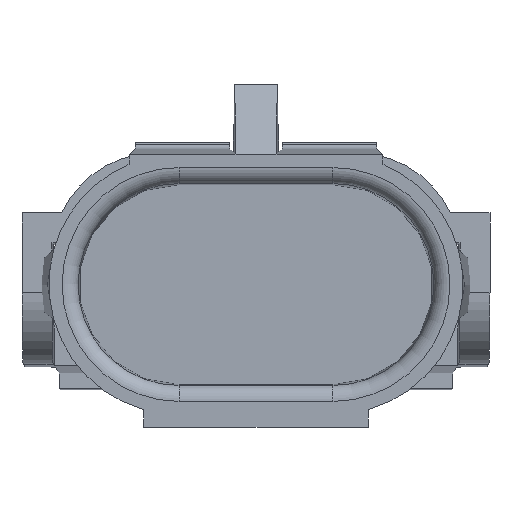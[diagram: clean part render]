
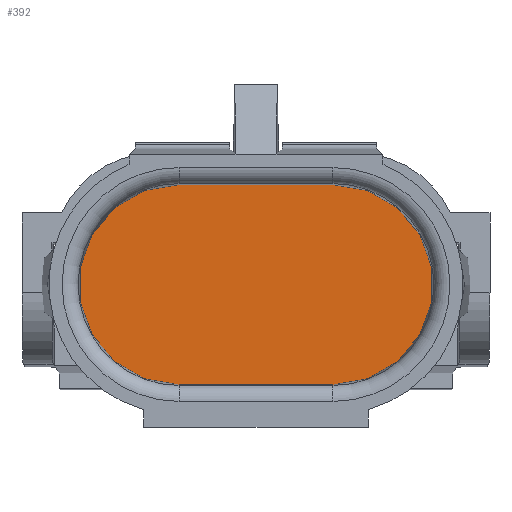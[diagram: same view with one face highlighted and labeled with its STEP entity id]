
A CAD part, top view. The second image highlights one B-rep face of the part: STEP entity #392.
In plain terms, the highlighted planar face has unit normal (0, 0, 1).
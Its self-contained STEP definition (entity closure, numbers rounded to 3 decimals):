
#206=CIRCLE('',#3249,5.);
#208=CIRCLE('',#3253,5.);
#392=ADVANCED_FACE('',(#644),#499,.T.);
#499=PLANE('',#3256);
#644=FACE_OUTER_BOUND('',#795,.T.);
#795=EDGE_LOOP('',(#2226,#2227,#2228,#2229));
#1091=LINE('',#5066,#1386);
#1094=LINE('',#5075,#1389);
#1386=VECTOR('',#4040,1.);
#1389=VECTOR('',#4051,1.);
#2226=ORIENTED_EDGE('',*,*,#2940,.T.);
#2227=ORIENTED_EDGE('',*,*,#2943,.T.);
#2228=ORIENTED_EDGE('',*,*,#2946,.T.);
#2229=ORIENTED_EDGE('',*,*,#2948,.F.);
#2518=VERTEX_POINT('',#5055);
#2520=VERTEX_POINT('',#5059);
#2522=VERTEX_POINT('',#5065);
#2524=VERTEX_POINT('',#5071);
#2940=EDGE_CURVE('',#2518,#2520,#206,.T.);
#2943=EDGE_CURVE('',#2520,#2522,#1091,.T.);
#2946=EDGE_CURVE('',#2522,#2524,#208,.T.);
#2948=EDGE_CURVE('',#2518,#2524,#1094,.T.);
#3249=AXIS2_PLACEMENT_3D('',#5060,#4034,#4035);
#3253=AXIS2_PLACEMENT_3D('',#5072,#4046,#4047);
#3256=AXIS2_PLACEMENT_3D('',#5077,#4054,#4055);
#4034=DIRECTION('',(0.,0.,1.));
#4035=DIRECTION('',(1.,0.,0.));
#4040=DIRECTION('',(1.,0.,0.));
#4046=DIRECTION('',(0.,0.,1.));
#4047=DIRECTION('',(1.,0.,0.));
#4051=DIRECTION('',(1.,0.,0.));
#4054=DIRECTION('',(0.,0.,1.));
#4055=DIRECTION('',(1.,0.,0.));
#5055=CARTESIAN_POINT('',(-3.85,5.,-1.3));
#5059=CARTESIAN_POINT('',(-3.85,-5.,-1.3));
#5060=CARTESIAN_POINT('',(-3.85,0.,-1.3));
#5065=CARTESIAN_POINT('',(3.85,-5.,-1.3));
#5066=CARTESIAN_POINT('',(-3.85,-5.,-1.3));
#5071=CARTESIAN_POINT('',(3.85,5.,-1.3));
#5072=CARTESIAN_POINT('',(3.85,0.,-1.3));
#5075=CARTESIAN_POINT('',(-3.85,5.,-1.3));
#5077=CARTESIAN_POINT('',(-3.85,0.,-1.3));
